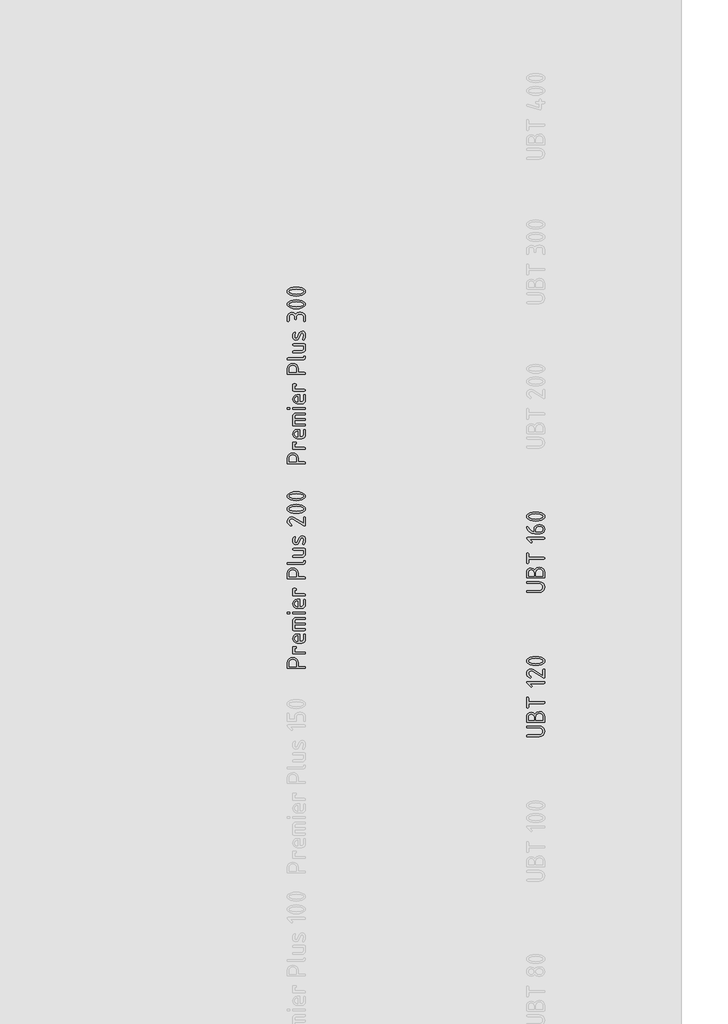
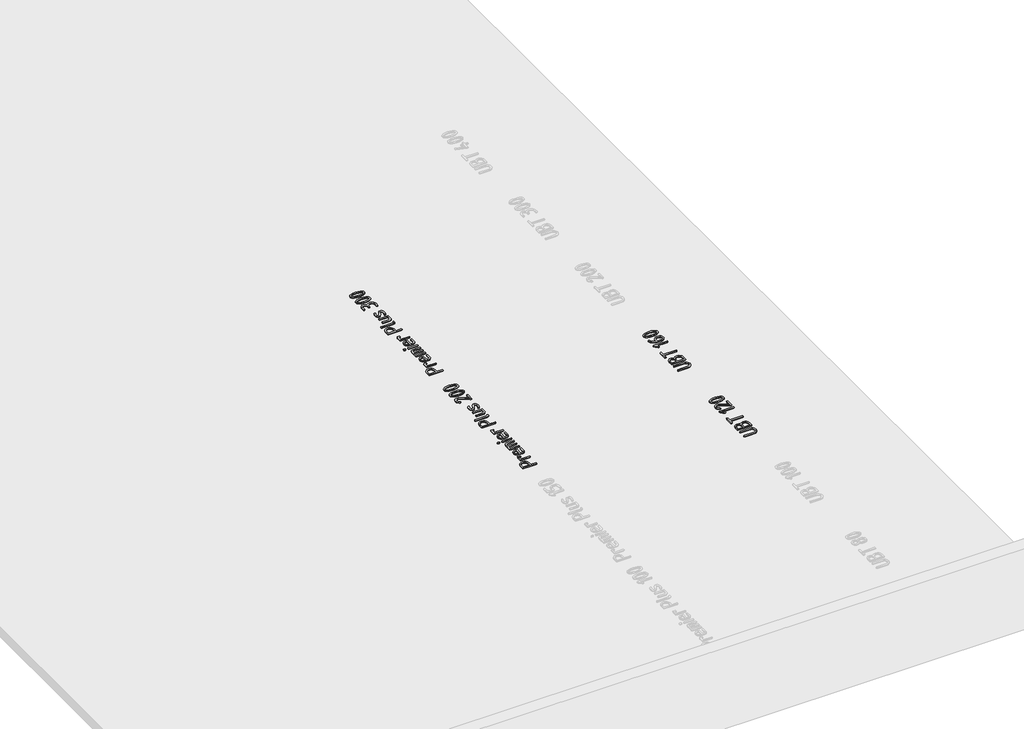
# One storey, part 30 of 37: 4 proxies.
"""IFC4 building model written with IfcOpenShell, lengths in millimetres."""

from ifc_helpers import new_model, si_unit, frame, origin, place, context, project, spatial, polyline, outline, extrude, element, save

model = new_model("IFC4")

# Units and contexts
model_context = context("Model", 3, world=origin())
ifc_project = project(units=[si_unit("LENGTHUNIT", "METRE", prefix="MILLI")], contexts=[model_context])

# Site, building, storey
site = spatial("IfcSite", under=ifc_project)
building = spatial("IfcBuilding", under=site)
storey = spatial("IfcBuildingStorey", under=building, Name="01_Стартовый вид_Площадка", Elevation=0.0)

# Proxies
placement = place(None, origin())
element("IfcBuildingElementProxy", 1, Name="150 мм", ObjectType="150 мм", at=placement, inside=storey, context=model_context, shape_type="SweptSolid", body=[
    extrude(outline(polyline([(35202.1598658, -14355.5522205), (35300.2010973, -14355.5522205), (35317.5700563, -14358.8282519), (35332.2023305, -14368.656346), (35342.1502794, -14383.118826), (35345.4662624, -14400.2980149), (35342.1502794, -14417.4772038), (35332.2023305, -14431.9396837), (35317.5700563, -14441.7677778), (35300.2010973, -14445.0438092), (35202.1598658, -14445.0438092), (35196.4967262, -14443.1261323), (35194.609013, -14437.3731016), (35196.4867383, -14431.6200709), (35202.1199142, -14429.702394), (35300.0013393, -14429.702394), (35311.6821889, -14427.5699772), (35321.3954222, -14421.172727), (35327.942491, -14411.6892154), (35330.1248472, -14400.2980149), (35327.942491, -14388.9068143), (35321.3954222, -14379.4233028), (35311.6821889, -14373.0260525), (35300.0013393, -14370.8936357), (35202.1199142, -14370.8936357), (35196.4867383, -14368.9759588), (35194.609013, -14363.2229281), (35196.4967262, -14357.4698974), (35202.1598658, -14355.5522205)])), frame((0.0, 0.0, 11.1696829), z_axis=(0.0, 0.0, 1.0), x_axis=(1.0, 0.0, 0.0)), (0.0, 0.0, 1.0), 10.0),
    extrude(outline(polyline([(35262.8463493, -14257.2313278), (35278.6571958, -14240.8411831), (35300.8403229, -14235.3778015), (35317.9545904, -14238.6538329), (35332.3821127, -14248.481927), (35342.195225, -14262.9444069), (35345.4662624, -14280.1235958), (35345.4662624, -14317.3984406), (35343.5785492, -14323.0016527), (35337.9154096, -14324.8693901), (35202.1598658, -14324.8693901), (35196.4967262, -14323.0116406), (35194.609013, -14317.4383922), (35194.609013, -14280.2434506), (35197.3856493, -14265.8059404), (35205.7155584, -14253.8154659), (35218.0805792, -14245.7402483), (35232.962551, -14243.0485091), (35249.622369, -14246.5942138), (35262.8463493, -14257.2313278)]), holes=[polyline([(35271.316089, -14309.5279749), (35330.1248472, -14309.5279749), (35330.1248472, -14280.1235958), (35327.9924305, -14268.7323953), (35321.5951802, -14259.2488837), (35312.1116686, -14252.8516335), (35300.7204681, -14250.7192167), (35289.3292675, -14252.8516335), (35279.845756, -14259.2488837), (35273.4485057, -14268.7323953), (35271.316089, -14280.1235958), (35271.316089, -14309.5279749)]), polyline([(35209.9504282, -14309.5279749), (35255.9746738, -14309.5279749), (35255.9746738, -14280.3233538), (35254.2917125, -14271.8885718), (35249.2428288, -14264.8021564), (35241.8068369, -14259.9929823), (35232.962551, -14258.3899243), (35224.1182651, -14259.9929823), (35216.6822731, -14264.8021564), (35211.6333894, -14271.8885718), (35209.9504282, -14280.3233538), (35209.9504282, -14309.5279749)])]), frame((0.0, 0.0, 11.1696829), z_axis=(0.0, 0.0, 1.0), x_axis=(1.0, 0.0, 0.0)), (0.0, 0.0, 1.0), 10.0),
    extrude(outline(polyline([(35202.2797206, -14206.41289), (35196.5266899, -14204.5351647), (35194.609013, -14198.9019888), (35194.609013, -14123.5532673), (35196.5266899, -14117.9500551), (35202.2797206, -14116.0823177), (35208.0327513, -14117.9500551), (35209.9504282, -14123.5532673), (35209.9504282, -14153.5569204), (35337.9553612, -14153.5569204), (35343.5885371, -14155.4745973), (35345.4662624, -14161.227628), (35343.5885371, -14166.9806587), (35337.9553612, -14168.8983356), (35209.9504282, -14168.8983356), (35209.9504282, -14198.9019888), (35208.0327513, -14204.5351647), (35202.2797206, -14206.41289)])), frame((0.0, 0.0, 11.1696829), z_axis=(0.0, 0.0, 1.0), x_axis=(1.0, 0.0, 0.0)), (0.0, 0.0, 1.0), 10.0),
    extrude(outline(polyline([(35220.3378447, -14002.699671), (35237.6368884, -14019.9587631), (35239.7942749, -14025.192423), (35237.9165496, -14030.8255989), (35232.2833737, -14032.7033242), (35227.0497139, -14030.505986), (35197.5654315, -14001.1815101), (35194.609013, -13995.0289634), (35196.4967262, -13989.2759327), (35202.1598658, -13987.3582558), (35337.9154096, -13987.3582558), (35343.5785492, -13989.2759327), (35345.4662624, -13995.0289634), (35343.5785492, -14000.7819941), (35337.9154096, -14002.699671), (35220.3378447, -14002.699671)])), frame((0.0, 0.0, 11.1696829), z_axis=(0.0, 0.0, 1.0), x_axis=(1.0, 0.0, 0.0)), (0.0, 0.0, 1.0), 10.0),
    extrude(outline(polyline([(35194.609013, -13919.5204355), (35197.3606796, -13905.0929132), (35205.6156793, -13892.9725959), (35217.7759482, -13884.7475598), (35232.2434221, -13882.0058811), (35243.0403426, -13883.7138121), (35253.9371421, -13888.8376051), (35330.1248472, -13936.1003503), (35330.1248472, -13889.5167823), (35332.0425241, -13883.8836064), (35337.7955548, -13882.0058811), (35343.5485855, -13883.8836064), (35345.4662624, -13889.5167823), (35345.4662624, -13949.5240886), (35343.5885371, -13955.1572645), (35337.9553612, -13957.0349898), (35333.6006366, -13955.7565386), (35244.9879832, -13900.7831341), (35232.5230833, -13897.0276835), (35223.8585796, -13898.6756871), (35216.5624183, -13903.6196978), (35211.6034257, -13910.8908894), (35209.9504282, -13919.5204355), (35214.6647172, -13931.7556136), (35228.8075844, -13943.0519291), (35232.4431801, -13949.5240886), (35230.5654548, -13955.1572645), (35224.932279, -13957.0349898), (35221.8560056, -13956.315861), (35201.4207611, -13940.14545), (35196.31195, -13930.3897682), (35194.609013, -13919.5204355)])), frame((0.0, 0.0, 11.1696829), z_axis=(0.0, 0.0, 1.0), x_axis=(1.0, 0.0, 0.0)), (0.0, 0.0, 1.0), 10.0),
    extrude(outline(polyline([(35270.0376377, -13777.6922481), (35295.1771833, -13779.3202759), (35316.6611573, -13784.2043592), (35338.2649861, -13796.6193196), (35343.6659433, -13804.9766953), (35345.4662624, -13814.7673348), (35343.6734343, -13824.5579743), (35338.2949498, -13832.9153501), (35316.7810121, -13845.3303104), (35295.2670744, -13850.2143938), (35270.0376377, -13851.8424216), (35244.808201, -13850.2143938), (35223.2942633, -13845.3303104), (35201.7803255, -13832.9153501), (35196.4018411, -13824.5579743), (35194.609013, -13814.7673348), (35196.409332, -13804.9766953), (35201.8102892, -13796.6193196), (35223.4141181, -13784.2043592), (35244.8980921, -13779.3202759), (35270.0376377, -13777.6922481)]), holes=[polyline([(35270.0376377, -13793.0336633), (35234.8802279, -13796.8690171), (35216.1828781, -13804.2600635), (35209.9504282, -13814.7673348), (35216.2128418, -13825.1847151), (35235.0000827, -13832.5457978), (35270.0376377, -13836.5010064), (35305.1950475, -13832.6656526), (35323.8923973, -13825.2746062), (35330.1248472, -13814.7673348), (35323.8923973, -13804.2600635), (35305.1950475, -13796.8690171), (35270.0376377, -13793.0336633)])]), frame((0.0, 0.0, 11.1696829), z_axis=(0.0, 0.0, 1.0), x_axis=(1.0, 0.0, 0.0)), (0.0, 0.0, 1.0), 10.0),
])
element("IfcBuildingElementProxy", 2, Name="150 мм", ObjectType="150 мм", at=placement, inside=storey, context=model_context, shape_type="SweptSolid", body=[
    extrude(outline(polyline([(35202.1598658, -13155.5522205), (35300.2010973, -13155.5522205), (35317.5700563, -13158.8282519), (35332.2023305, -13168.656346), (35342.1502794, -13183.118826), (35345.4662624, -13200.2980149), (35342.1502794, -13217.4772038), (35332.2023305, -13231.9396837), (35317.5700563, -13241.7677778), (35300.2010973, -13245.0438092), (35202.1598658, -13245.0438092), (35196.4967262, -13243.1261323), (35194.609013, -13237.3731016), (35196.4867383, -13231.6200709), (35202.1199142, -13229.702394), (35300.0013393, -13229.702394), (35311.6821889, -13227.5699772), (35321.3954222, -13221.172727), (35327.942491, -13211.6892154), (35330.1248472, -13200.2980149), (35327.942491, -13188.9068143), (35321.3954222, -13179.4233028), (35311.6821889, -13173.0260525), (35300.0013393, -13170.8936357), (35202.1199142, -13170.8936357), (35196.4867383, -13168.9759588), (35194.609013, -13163.2229281), (35196.4967262, -13157.4698974), (35202.1598658, -13155.5522205)])), frame((0.0, 0.0, 11.1696829), z_axis=(0.0, 0.0, 1.0), x_axis=(1.0, 0.0, 0.0)), (0.0, 0.0, 1.0), 10.0),
    extrude(outline(polyline([(35262.8463493, -13057.2313278), (35278.6571958, -13040.8411831), (35300.8403229, -13035.3778015), (35317.9545904, -13038.6538329), (35332.3821127, -13048.481927), (35342.195225, -13062.9444069), (35345.4662624, -13080.1235958), (35345.4662624, -13117.3984406), (35343.5785492, -13123.0016527), (35337.9154096, -13124.8693901), (35202.1598658, -13124.8693901), (35196.4967262, -13123.0116406), (35194.609013, -13117.4383922), (35194.609013, -13080.2434506), (35197.3856493, -13065.8059404), (35205.7155584, -13053.8154659), (35218.0805792, -13045.7402483), (35232.962551, -13043.0485091), (35249.622369, -13046.5942138), (35262.8463493, -13057.2313278)]), holes=[polyline([(35271.316089, -13109.5279749), (35330.1248472, -13109.5279749), (35330.1248472, -13080.1235958), (35327.9924305, -13068.7323953), (35321.5951802, -13059.2488837), (35312.1116686, -13052.8516335), (35300.7204681, -13050.7192167), (35289.3292675, -13052.8516335), (35279.845756, -13059.2488837), (35273.4485057, -13068.7323953), (35271.316089, -13080.1235958), (35271.316089, -13109.5279749)]), polyline([(35209.9504282, -13109.5279749), (35255.9746738, -13109.5279749), (35255.9746738, -13080.3233538), (35254.2917125, -13071.8885718), (35249.2428288, -13064.8021564), (35241.8068369, -13059.9929823), (35232.962551, -13058.3899243), (35224.1182651, -13059.9929823), (35216.6822731, -13064.8021564), (35211.6333894, -13071.8885718), (35209.9504282, -13080.3233538), (35209.9504282, -13109.5279749)])]), frame((0.0, 0.0, 11.1696829), z_axis=(0.0, 0.0, 1.0), x_axis=(1.0, 0.0, 0.0)), (0.0, 0.0, 1.0), 10.0),
    extrude(outline(polyline([(35202.2797206, -13006.41289), (35196.5266899, -13004.5351647), (35194.609013, -12998.9019888), (35194.609013, -12923.5532673), (35196.5266899, -12917.9500551), (35202.2797206, -12916.0823177), (35208.0327513, -12917.9500551), (35209.9504282, -12923.5532673), (35209.9504282, -12953.5569204), (35337.9553612, -12953.5569204), (35343.5885371, -12955.4745973), (35345.4662624, -12961.227628), (35343.5885371, -12966.9806587), (35337.9553612, -12968.8983356), (35209.9504282, -12968.8983356), (35209.9504282, -12998.9019888), (35208.0327513, -13004.5351647), (35202.2797206, -13006.41289)])), frame((0.0, 0.0, 11.1696829), z_axis=(0.0, 0.0, 1.0), x_axis=(1.0, 0.0, 0.0)), (0.0, 0.0, 1.0), 10.0),
    extrude(outline(polyline([(35220.3378447, -12802.699671), (35237.6368884, -12819.9587631), (35239.7942749, -12825.192423), (35237.9165496, -12830.8255989), (35232.2833737, -12832.7033242), (35227.0497139, -12830.505986), (35197.5654315, -12801.1815101), (35194.609013, -12795.0289634), (35196.4967262, -12789.2759327), (35202.1598658, -12787.3582558), (35337.9154096, -12787.3582558), (35343.5785492, -12789.2759327), (35345.4662624, -12795.0289634), (35343.5785492, -12800.7819941), (35337.9154096, -12802.699671), (35220.3378447, -12802.699671)])), frame((0.0, 0.0, 11.1696829), z_axis=(0.0, 0.0, 1.0), x_axis=(1.0, 0.0, 0.0)), (0.0, 0.0, 1.0), 10.0),
    extrude(outline(polyline([(35194.609013, -12705.2177619), (35196.5266899, -12699.7044408), (35202.2797206, -12697.8666671), (35208.9116865, -12701.5422145), (35216.1629023, -12716.853666), (35229.3669068, -12730.10761), (35242.4111049, -12737.7483539), (35255.9746738, -12741.3340102), (35255.9746738, -12719.6402903), (35258.6863888, -12705.1628285), (35266.8215337, -12693.2123055), (35278.8519599, -12685.1970153), (35293.2495185, -12682.5252519), (35308.1914177, -12682.5252519), (35322.5889763, -12685.2369669), (35334.6194025, -12693.3721119), (35342.7545474, -12705.3525986), (35345.4662624, -12719.6003387), (35342.7395656, -12733.922988), (35334.5594751, -12745.8884928), (35322.4641275, -12753.9786923), (35307.9916597, -12756.6754254), (35262.4867849, -12756.6754254), (35238.4558963, -12752.5304467), (35217.5811842, -12740.0955105), (35204.7766957, -12726.5718932), (35196.3269319, -12711.8896795), (35194.609013, -12705.2177619)]), holes=[polyline([(35271.316089, -12741.3340102), (35308.0715629, -12741.3340102), (35316.596236, -12739.7559219), (35323.7126151, -12735.0216571), (35328.5217892, -12728.0101509), (35330.1248472, -12719.6003387), (35328.5118013, -12711.1905264), (35323.6726635, -12704.1790203), (35316.5462965, -12699.4447554), (35308.0715629, -12697.8666671), (35293.3693733, -12697.8666671), (35284.8447002, -12699.4597373), (35277.7283211, -12704.2389477), (35272.919147, -12711.2654357), (35271.316089, -12719.6003387), (35271.316089, -12741.3340102)])]), frame((0.0, 0.0, 11.1696829), z_axis=(0.0, 0.0, 1.0), x_axis=(1.0, 0.0, 0.0)), (0.0, 0.0, 1.0), 10.0),
    extrude(outline(polyline([(35270.0376377, -12577.6922481), (35295.1771833, -12579.3202759), (35316.6611573, -12584.2043592), (35338.2649861, -12596.6193196), (35343.6659433, -12604.9766953), (35345.4662624, -12614.7673348), (35343.6734343, -12624.5579743), (35338.2949498, -12632.9153501), (35316.7810121, -12645.3303104), (35295.2670744, -12650.2143938), (35270.0376377, -12651.8424216), (35244.808201, -12650.2143938), (35223.2942633, -12645.3303104), (35201.7803255, -12632.9153501), (35196.4018411, -12624.5579743), (35194.609013, -12614.7673348), (35196.409332, -12604.9766953), (35201.8102892, -12596.6193196), (35223.4141181, -12584.2043592), (35244.8980921, -12579.3202759), (35270.0376377, -12577.6922481)]), holes=[polyline([(35270.0376377, -12593.0336633), (35234.8802279, -12596.8690171), (35216.1828781, -12604.2600635), (35209.9504282, -12614.7673348), (35216.2128418, -12625.1847151), (35235.0000827, -12632.5457978), (35270.0376377, -12636.5010064), (35305.1950475, -12632.6656526), (35323.8923973, -12625.2746062), (35330.1248472, -12614.7673348), (35323.8923973, -12604.2600635), (35305.1950475, -12596.8690171), (35270.0376377, -12593.0336633)])]), frame((0.0, 0.0, 11.1696829), z_axis=(0.0, 0.0, 1.0), x_axis=(1.0, 0.0, 0.0)), (0.0, 0.0, 1.0), 10.0),
])
element("IfcBuildingElementProxy", 3, Name="150 мм", ObjectType="150 мм", at=placement, inside=storey, context=model_context, shape_type="SweptSolid", body=[
    extrude(outline(polyline([(33204.4863843, -13868.7582704), (33204.4863843, -13831.4834256), (33207.8423188, -13814.2293275), (33217.9101226, -13799.7818294), (33232.7721185, -13789.9986808), (33250.5106299, -13786.7376313), (33269.0481732, -13789.8288865), (33283.7503628, -13799.1026521), (33293.3387473, -13813.3204285), (33296.5348755, -13831.243716), (33296.5348755, -13860.8878048), (33347.9925389, -13860.8878048), (33353.50586, -13862.8054817), (33355.3436337, -13868.5585124), (33353.4559205, -13874.3115431), (33347.7927809, -13876.22922), (33212.0372371, -13876.22922), (33206.3740975, -13874.3614826), (33204.4863843, -13868.7582704)]), holes=[polyline([(33219.8277995, -13860.8878048), (33281.1934603, -13860.8878048), (33281.1934603, -13831.4834256), (33278.9711524, -13820.0922251), (33272.3042288, -13810.6087135), (33262.4112133, -13804.2114633), (33250.5106299, -13802.0790465), (33238.6100464, -13804.2114633), (33228.7170309, -13810.6087135), (33222.0501073, -13820.0922251), (33219.8277995, -13831.4834256), (33219.8277995, -13860.8878048)])]), frame((0.0, 0.0, 11.1696829), z_axis=(0.0, 0.0, 1.0), x_axis=(1.0, 0.0, 0.0)), (0.0, 0.0, 1.0), 10.0),
    extrude(outline(polyline([(33257.9815795, -13756.0548009), (33252.3783673, -13754.137124), (33250.5106299, -13748.3840933), (33250.5106299, -13703.1988314), (33252.4283068, -13697.5956192), (33258.1813375, -13695.7278818), (33273.3629463, -13695.7278818), (33278.9961221, -13697.5956192), (33280.8738474, -13703.1988314), (33278.9961221, -13708.8320073), (33273.3629463, -13710.7097326), (33265.8520451, -13710.7097326), (33265.8520451, -13740.7133857), (33347.8726841, -13740.7133857), (33353.4758963, -13742.6310626), (33355.3436337, -13748.3840933), (33353.4758963, -13754.137124), (33347.8726841, -13756.0548009), (33257.9815795, -13756.0548009)])), frame((0.0, 0.0, 11.1696829), z_axis=(0.0, 0.0, 1.0), x_axis=(1.0, 0.0, 0.0)), (0.0, 0.0, 1.0), 10.0),
    extrude(outline(polyline([(33309.3193881, -13651.2217971), (33324.6608033, -13651.2217971), (33335.4677117, -13646.7871692), (33340.0022185, -13636.2399463), (33340.0022185, -13598.7253919), (33341.9198954, -13593.092216), (33347.6729261, -13591.2144907), (33353.4259568, -13593.092216), (33355.3436337, -13598.7253919), (33355.3436337, -13636.2399463), (33353.1762593, -13647.8958262), (33346.6741361, -13657.6939566), (33337.0158363, -13664.3458983), (33325.3799322, -13666.5632123), (33287.945281, -13666.5632123), (33273.5527164, -13663.781582), (33261.4573688, -13655.4366911), (33253.2473146, -13643.196519), (33250.5106299, -13628.7290451), (33253.1674114, -13614.1517043), (33261.137756, -13602.0613507), (33272.983406, -13593.9262057), (33287.2661038, -13591.2144907), (33309.3193881, -13591.2144907), (33309.3193881, -13651.2217971)]), holes=[polyline([(33263.9743198, -13628.7290451), (33265.6223234, -13637.3585911), (33270.5663341, -13644.6297827), (33277.8375257, -13649.5737935), (33286.4670717, -13651.2217971), (33293.9779729, -13651.2217971), (33293.9779729, -13606.2362931), (33286.4670717, -13606.2362931), (33277.8375257, -13607.8842967), (33270.5663341, -13612.8283075), (33265.6223234, -13620.099499), (33263.9743198, -13628.7290451)])]), frame((0.0, 0.0, 11.1696829), z_axis=(0.0, 0.0, 1.0), x_axis=(1.0, 0.0, 0.0)), (0.0, 0.0, 1.0), 10.0),
    extrude(outline(polyline([(33250.5106299, -13554.0595008), (33250.5106299, -13485.0231324), (33252.6780043, -13473.122549), (33259.1801275, -13463.2295335), (33268.8384273, -13456.5626099), (33280.4743314, -13454.340302), (33347.8726841, -13454.340302), (33353.4758963, -13456.2579789), (33355.3436337, -13462.0110096), (33353.4758963, -13467.7640403), (33347.8726841, -13469.6817172), (33280.7539926, -13469.6817172), (33270.1468423, -13474.0963693), (33265.8520451, -13485.0231324), (33265.8520451, -13500.3645476), (33347.8726841, -13500.3645476), (33353.4758963, -13502.2822245), (33355.3436337, -13508.0352552), (33353.4758963, -13513.7882859), (33347.8726841, -13515.7059628), (33265.8520451, -13515.7059628), (33265.8520451, -13546.3887932), (33347.8726841, -13546.3887932), (33353.4758963, -13548.3064701), (33355.3436337, -13554.0595008), (33353.4758963, -13559.8125315), (33347.8726841, -13561.7302084), (33257.9815795, -13561.7302084), (33252.3783673, -13559.8125315), (33250.5106299, -13554.0595008)])), frame((0.0, 0.0, 11.1696829), z_axis=(0.0, 0.0, 1.0), x_axis=(1.0, 0.0, 0.0)), (0.0, 0.0, 1.0), 10.0),
    extrude(outline(polyline([(33257.821773, -13423.6574716), (33252.2185609, -13421.7397947), (33250.3508235, -13415.986764), (33252.2185609, -13410.2337333), (33257.821773, -13408.3160564), (33347.8327325, -13408.3160564), (33353.4659084, -13410.2337333), (33355.3436337, -13415.986764), (33353.4659084, -13421.7397947), (33347.8327325, -13423.6574716), (33257.821773, -13423.6574716)])), frame((0.0, 0.0, 11.1696829), z_axis=(0.0, 0.0, 1.0), x_axis=(1.0, 0.0, 0.0)), (0.0, 0.0, 1.0), 10.0),
    extrude(outline(polyline([(33219.5081867, -13423.6574716), (33211.9972855, -13423.6574716), (33206.3641096, -13421.7397947), (33204.4863843, -13415.986764), (33206.3641096, -13410.2337333), (33211.9972855, -13408.3160564), (33219.5081867, -13408.3160564), (33225.1413625, -13410.2337333), (33227.0190878, -13415.986764), (33225.1413625, -13421.7397947), (33219.5081867, -13423.6574716)])), frame((0.0, 0.0, 11.1696829), z_axis=(0.0, 0.0, 1.0), x_axis=(1.0, 0.0, 0.0)), (0.0, 0.0, 1.0), 10.0),
    extrude(outline(polyline([(33309.3193881, -13362.2918108), (33324.6608033, -13362.2918108), (33335.4677117, -13357.857183), (33340.0022185, -13347.3099601), (33340.0022185, -13309.7954057), (33341.9198954, -13304.1622298), (33347.6729261, -13302.2845045), (33353.4259568, -13304.1622298), (33355.3436337, -13309.7954057), (33355.3436337, -13347.3099601), (33353.1762593, -13358.96584), (33346.6741361, -13368.7639704), (33337.0158363, -13375.4159121), (33325.3799322, -13377.633226), (33287.945281, -13377.633226), (33273.5527164, -13374.8515957), (33261.4573688, -13366.5067049), (33253.2473146, -13354.2665328), (33250.5106299, -13339.7990589), (33253.1674114, -13325.2217181), (33261.137756, -13313.1313645), (33272.983406, -13304.9962195), (33287.2661038, -13302.2845045), (33309.3193881, -13302.2845045), (33309.3193881, -13362.2918108)]), holes=[polyline([(33263.9743198, -13339.7990589), (33265.6223234, -13348.4286049), (33270.5663341, -13355.6997965), (33277.8375257, -13360.6438073), (33286.4670717, -13362.2918108), (33293.9779729, -13362.2918108), (33293.9779729, -13317.3063069), (33286.4670717, -13317.3063069), (33277.8375257, -13318.9543105), (33270.5663341, -13323.8983212), (33265.6223234, -13331.1695128), (33263.9743198, -13339.7990589)])]), frame((0.0, 0.0, 11.1696829), z_axis=(0.0, 0.0, 1.0), x_axis=(1.0, 0.0, 0.0)), (0.0, 0.0, 1.0), 10.0),
    extrude(outline(polyline([(33257.9815795, -13272.8002222), (33252.3783673, -13270.8825453), (33250.5106299, -13265.1295146), (33250.5106299, -13219.9442526), (33252.4283068, -13214.3410404), (33258.1813375, -13212.4733031), (33273.3629463, -13212.4733031), (33278.9961221, -13214.3410404), (33280.8738474, -13219.9442526), (33278.9961221, -13225.5774285), (33273.3629463, -13227.4551538), (33265.8520451, -13227.4551538), (33265.8520451, -13257.458807), (33347.8726841, -13257.458807), (33353.4758963, -13259.3764839), (33355.3436337, -13265.1295146), (33353.4758963, -13270.8825453), (33347.8726841, -13272.8002222), (33257.9815795, -13272.8002222)])), frame((0.0, 0.0, 11.1696829), z_axis=(0.0, 0.0, 1.0), x_axis=(1.0, 0.0, 0.0)), (0.0, 0.0, 1.0), 10.0),
    extrude(outline(polyline([(33204.4863843, -13124.6996333), (33204.4863843, -13087.4247886), (33207.8423188, -13070.1706904), (33217.9101226, -13055.7231923), (33232.7721185, -13045.9400437), (33250.5106299, -13042.6789942), (33269.0481732, -13045.7702494), (33283.7503628, -13055.0440151), (33293.3387473, -13069.2617915), (33296.5348755, -13087.1850789), (33296.5348755, -13116.8291677), (33347.9925389, -13116.8291677), (33353.50586, -13118.7468446), (33355.3436337, -13124.4998753), (33353.4559205, -13130.252906), (33347.7927809, -13132.1705829), (33212.0372371, -13132.1705829), (33206.3740975, -13130.3028455), (33204.4863843, -13124.6996333)]), holes=[polyline([(33219.8277995, -13116.8291677), (33281.1934603, -13116.8291677), (33281.1934603, -13087.4247886), (33278.9711524, -13076.033588), (33272.3042288, -13066.5500765), (33262.4112133, -13060.1528262), (33250.5106299, -13058.0204094), (33238.6100464, -13060.1528262), (33228.7170309, -13066.5500765), (33222.0501073, -13076.033588), (33219.8277995, -13087.4247886), (33219.8277995, -13116.8291677)])]), frame((0.0, 0.0, 11.1696829), z_axis=(0.0, 0.0, 1.0), x_axis=(1.0, 0.0, 0.0)), (0.0, 0.0, 1.0), 10.0),
    extrude(outline(polyline([(33212.0372371, -13011.9961638), (33206.3740975, -13010.0784869), (33204.4863843, -13004.3254562), (33206.3740975, -12998.5724255), (33212.0372371, -12996.6547486), (33332.7310269, -12996.6547486), (33337.5052434, -12994.7820173), (33340.2419281, -12989.1638232), (33342.9886008, -12983.5456292), (33347.7927809, -12981.6728979), (33353.4559205, -12983.5406353), (33355.3436337, -12989.1438474), (33353.8454486, -12998.3676736), (33349.3508934, -13005.6638349), (33342.1995566, -13010.4130816), (33332.7310269, -13011.9961638), (33212.0372371, -13011.9961638)])), frame((0.0, 0.0, 11.1696829), z_axis=(0.0, 0.0, 1.0), x_axis=(1.0, 0.0, 0.0)), (0.0, 0.0, 1.0), 10.0),
    extrude(outline(polyline([(33257.9815795, -12879.0372321), (33347.8726841, -12879.0372321), (33353.4758963, -12880.8949816), (33355.3436337, -12886.4682301), (33355.3436337, -12923.5433168), (33353.1762593, -12935.0393903), (33346.6741361, -12944.5978111), (33337.0158363, -12951.040007), (33325.3799322, -12953.1874056), (33257.9815795, -12953.1874056), (33252.3783673, -12951.2697287), (33250.5106299, -12945.516698), (33252.3783673, -12939.7636673), (33257.9815795, -12937.8459904), (33325.1002709, -12937.8459904), (33335.5875665, -12933.571169), (33340.0022185, -12923.3435588), (33340.0022185, -12894.3786473), (33257.9815795, -12894.3786473), (33252.3783673, -12892.4609704), (33250.5106299, -12886.7079397), (33252.3783673, -12880.954909), (33257.9815795, -12879.0372321)])), frame((0.0, 0.0, 11.1696829), z_axis=(0.0, 0.0, 1.0), x_axis=(1.0, 0.0, 0.0)), (0.0, 0.0, 1.0), 10.0),
    extrude(outline(polyline([(33328.8157699, -12788.7066598), (33322.6931869, -12790.294736), (33318.6281114, -12795.0589646), (33300.1704712, -12833.572309), (33290.6420142, -12844.9285518), (33276.5191228, -12848.7139661), (33265.0929646, -12846.0372088), (33256.623225, -12838.0069368), (33252.0387786, -12827.6794476), (33250.5106299, -12815.0747172), (33252.6280648, -12799.2239191), (33258.9803695, -12785.1509672), (33265.7321903, -12781.1957586), (33271.0257775, -12783.4130725), (33273.2430914, -12788.7066598), (33272.3242046, -12792.2224008), (33267.4700849, -12803.3289462), (33265.8520451, -12815.0747172), (33268.6286814, -12829.0378021), (33276.9585904, -12833.6921638), (33282.9413429, -12832.1540271), (33286.9065394, -12827.539617), (33305.5639375, -12788.7066598), (33315.0923946, -12777.440308), (33329.215286, -12773.6848574), (33341.1008876, -12776.3815906), (33349.590603, -12784.47179), (33353.905376, -12795.0290009), (33355.3436337, -12808.2429932), (33353.2261988, -12828.0889516), (33346.8738941, -12844.4790963), (33340.0022185, -12848.7139661), (33334.7086312, -12846.4966522), (33332.4913173, -12841.203065), (33333.0506398, -12838.3665012), (33337.245558, -12827.6594718), (33340.0022185, -12807.8035256), (33337.2056064, -12793.4808763), (33328.8157699, -12788.7066598)])), frame((0.0, 0.0, 11.1696829), z_axis=(0.0, 0.0, 1.0), x_axis=(1.0, 0.0, 0.0)), (0.0, 0.0, 1.0), 10.0),
    extrude(outline(polyline([(33204.4863843, -12655.2283573), (33207.2380509, -12640.800835), (33215.4930506, -12628.6805177), (33227.6533195, -12620.4554816), (33242.1207934, -12617.7138029), (33252.9177139, -12619.4217339), (33263.8145134, -12624.5455269), (33340.0022185, -12671.8082721), (33340.0022185, -12625.2247041), (33341.9198954, -12619.5915282), (33347.6729261, -12617.7138029), (33353.4259568, -12619.5915282), (33355.3436337, -12625.2247041), (33355.3436337, -12685.2320104), (33353.4659084, -12690.8651863), (33347.8327325, -12692.7429116), (33343.4780079, -12691.4644604), (33254.8653545, -12636.4910559), (33242.4004546, -12632.7356053), (33233.7359509, -12634.3836089), (33226.4397896, -12639.3276197), (33221.480797, -12646.5988112), (33219.8277995, -12655.2283573), (33224.5420885, -12667.4635354), (33238.6849557, -12678.7598509), (33242.3205514, -12685.2320104), (33240.4428261, -12690.8651863), (33234.8096503, -12692.7429116), (33231.7333769, -12692.0237828), (33211.2981324, -12675.8533719), (33206.1893213, -12666.09769), (33204.4863843, -12655.2283573)])), frame((0.0, 0.0, 11.1696829), z_axis=(0.0, 0.0, 1.0), x_axis=(1.0, 0.0, 0.0)), (0.0, 0.0, 1.0), 10.0),
    extrude(outline(polyline([(33279.915009, -12513.4001699), (33305.0545546, -12515.0281977), (33326.5385286, -12519.912281), (33348.1423574, -12532.3272414), (33353.5433146, -12540.6846172), (33355.3436337, -12550.4752566), (33353.5508056, -12560.2658961), (33348.1723211, -12568.6232719), (33326.6583834, -12581.0382322), (33305.1444457, -12585.9223156), (33279.915009, -12587.5503434), (33254.6855723, -12585.9223156), (33233.1716346, -12581.0382322), (33211.6576968, -12568.6232719), (33206.2792124, -12560.2658961), (33204.4863843, -12550.4752566), (33206.2867033, -12540.6846172), (33211.6876605, -12532.3272414), (33233.2914894, -12519.912281), (33254.7754634, -12515.0281977), (33279.915009, -12513.4001699)]), holes=[polyline([(33279.915009, -12528.7415851), (33244.7575992, -12532.5769389), (33226.0602494, -12539.9679853), (33219.8277995, -12550.4752566), (33226.0902131, -12560.8926369), (33244.877454, -12568.2537196), (33279.915009, -12572.2089282), (33315.0724188, -12568.3735744), (33333.7697686, -12560.982528), (33340.0022185, -12550.4752566), (33333.7697686, -12539.9679853), (33315.0724188, -12532.5769389), (33279.915009, -12528.7415851)])]), frame((0.0, 0.0, 11.1696829), z_axis=(0.0, 0.0, 1.0), x_axis=(1.0, 0.0, 0.0)), (0.0, 0.0, 1.0), 10.0),
    extrude(outline(polyline([(33279.915009, -12408.5671661), (33305.0545546, -12410.1951938), (33326.5385286, -12415.0792772), (33348.1423574, -12427.4942375), (33353.5433146, -12435.8516133), (33355.3436337, -12445.6422528), (33353.5508056, -12455.4328923), (33348.1723211, -12463.790268), (33326.6583834, -12476.2052284), (33305.1444457, -12481.0893117), (33279.915009, -12482.7173395), (33254.6855723, -12481.0893117), (33233.1716346, -12476.2052284), (33211.6576968, -12463.790268), (33206.2792124, -12455.4328923), (33204.4863843, -12445.6422528), (33206.2867033, -12435.8516133), (33211.6876605, -12427.4942375), (33233.2914894, -12415.0792772), (33254.7754634, -12410.1951938), (33279.915009, -12408.5671661)]), holes=[polyline([(33279.915009, -12423.9085813), (33244.7575992, -12427.7439351), (33226.0602494, -12435.1349814), (33219.8277995, -12445.6422528), (33226.0902131, -12456.059633), (33244.877454, -12463.4207157), (33279.915009, -12467.3759243), (33315.0724188, -12463.5405705), (33333.7697686, -12456.1495241), (33340.0022185, -12445.6422528), (33333.7697686, -12435.1349814), (33315.0724188, -12427.7439351), (33279.915009, -12423.9085813)])]), frame((0.0, 0.0, 11.1696829), z_axis=(0.0, 0.0, 1.0), x_axis=(1.0, 0.0, 0.0)), (0.0, 0.0, 1.0), 10.0),
])
element("IfcBuildingElementProxy", 4, Name="150 мм", ObjectType="150 мм", at=placement, inside=storey, context=model_context, shape_type="SweptSolid", body=[
    extrude(outline(polyline([(33204.4863843, -12168.7582704), (33204.4863843, -12131.4834256), (33207.8423188, -12114.2293275), (33217.9101226, -12099.7818294), (33232.7721185, -12089.9986808), (33250.5106299, -12086.7376313), (33269.0481732, -12089.8288865), (33283.7503628, -12099.1026521), (33293.3387473, -12113.3204285), (33296.5348755, -12131.243716), (33296.5348755, -12160.8878048), (33347.9925389, -12160.8878048), (33353.50586, -12162.8054817), (33355.3436337, -12168.5585124), (33353.4559205, -12174.3115431), (33347.7927809, -12176.22922), (33212.0372371, -12176.22922), (33206.3740975, -12174.3614826), (33204.4863843, -12168.7582704)]), holes=[polyline([(33219.8277995, -12160.8878048), (33281.1934603, -12160.8878048), (33281.1934603, -12131.4834256), (33278.9711524, -12120.0922251), (33272.3042288, -12110.6087135), (33262.4112133, -12104.2114633), (33250.5106299, -12102.0790465), (33238.6100464, -12104.2114633), (33228.7170309, -12110.6087135), (33222.0501073, -12120.0922251), (33219.8277995, -12131.4834256), (33219.8277995, -12160.8878048)])]), frame((0.0, 0.0, 11.1696829), z_axis=(0.0, 0.0, 1.0), x_axis=(1.0, 0.0, 0.0)), (0.0, 0.0, 1.0), 10.0),
    extrude(outline(polyline([(33257.9815795, -12056.0548009), (33252.3783673, -12054.137124), (33250.5106299, -12048.3840933), (33250.5106299, -12003.1988314), (33252.4283068, -11997.5956192), (33258.1813375, -11995.7278818), (33273.3629463, -11995.7278818), (33278.9961221, -11997.5956192), (33280.8738474, -12003.1988314), (33278.9961221, -12008.8320073), (33273.3629463, -12010.7097326), (33265.8520451, -12010.7097326), (33265.8520451, -12040.7133857), (33347.8726841, -12040.7133857), (33353.4758963, -12042.6310626), (33355.3436337, -12048.3840933), (33353.4758963, -12054.137124), (33347.8726841, -12056.0548009), (33257.9815795, -12056.0548009)])), frame((0.0, 0.0, 11.1696829), z_axis=(0.0, 0.0, 1.0), x_axis=(1.0, 0.0, 0.0)), (0.0, 0.0, 1.0), 10.0),
    extrude(outline(polyline([(33309.3193881, -11951.2217971), (33324.6608033, -11951.2217971), (33335.4677117, -11946.7871692), (33340.0022185, -11936.2399463), (33340.0022185, -11898.7253919), (33341.9198954, -11893.092216), (33347.6729261, -11891.2144907), (33353.4259568, -11893.092216), (33355.3436337, -11898.7253919), (33355.3436337, -11936.2399463), (33353.1762593, -11947.8958262), (33346.6741361, -11957.6939566), (33337.0158363, -11964.3458983), (33325.3799322, -11966.5632123), (33287.945281, -11966.5632123), (33273.5527164, -11963.781582), (33261.4573688, -11955.4366911), (33253.2473146, -11943.196519), (33250.5106299, -11928.7290451), (33253.1674114, -11914.1517043), (33261.137756, -11902.0613507), (33272.983406, -11893.9262057), (33287.2661038, -11891.2144907), (33309.3193881, -11891.2144907), (33309.3193881, -11951.2217971)]), holes=[polyline([(33263.9743198, -11928.7290451), (33265.6223234, -11937.3585911), (33270.5663341, -11944.6297827), (33277.8375257, -11949.5737935), (33286.4670717, -11951.2217971), (33293.9779729, -11951.2217971), (33293.9779729, -11906.2362931), (33286.4670717, -11906.2362931), (33277.8375257, -11907.8842967), (33270.5663341, -11912.8283075), (33265.6223234, -11920.099499), (33263.9743198, -11928.7290451)])]), frame((0.0, 0.0, 11.1696829), z_axis=(0.0, 0.0, 1.0), x_axis=(1.0, 0.0, 0.0)), (0.0, 0.0, 1.0), 10.0),
    extrude(outline(polyline([(33250.5106299, -11854.0595008), (33250.5106299, -11785.0231324), (33252.6780043, -11773.122549), (33259.1801275, -11763.2295335), (33268.8384273, -11756.5626099), (33280.4743314, -11754.340302), (33347.8726841, -11754.340302), (33353.4758963, -11756.2579789), (33355.3436337, -11762.0110096), (33353.4758963, -11767.7640403), (33347.8726841, -11769.6817172), (33280.7539926, -11769.6817172), (33270.1468423, -11774.0963693), (33265.8520451, -11785.0231324), (33265.8520451, -11800.3645476), (33347.8726841, -11800.3645476), (33353.4758963, -11802.2822245), (33355.3436337, -11808.0352552), (33353.4758963, -11813.7882859), (33347.8726841, -11815.7059628), (33265.8520451, -11815.7059628), (33265.8520451, -11846.3887932), (33347.8726841, -11846.3887932), (33353.4758963, -11848.3064701), (33355.3436337, -11854.0595008), (33353.4758963, -11859.8125315), (33347.8726841, -11861.7302084), (33257.9815795, -11861.7302084), (33252.3783673, -11859.8125315), (33250.5106299, -11854.0595008)])), frame((0.0, 0.0, 11.1696829), z_axis=(0.0, 0.0, 1.0), x_axis=(1.0, 0.0, 0.0)), (0.0, 0.0, 1.0), 10.0),
    extrude(outline(polyline([(33257.821773, -11723.6574716), (33252.2185609, -11721.7397947), (33250.3508235, -11715.986764), (33252.2185609, -11710.2337333), (33257.821773, -11708.3160564), (33347.8327325, -11708.3160564), (33353.4659084, -11710.2337333), (33355.3436337, -11715.986764), (33353.4659084, -11721.7397947), (33347.8327325, -11723.6574716), (33257.821773, -11723.6574716)])), frame((0.0, 0.0, 11.1696829), z_axis=(0.0, 0.0, 1.0), x_axis=(1.0, 0.0, 0.0)), (0.0, 0.0, 1.0), 10.0),
    extrude(outline(polyline([(33219.5081867, -11723.6574716), (33211.9972855, -11723.6574716), (33206.3641096, -11721.7397947), (33204.4863843, -11715.986764), (33206.3641096, -11710.2337333), (33211.9972855, -11708.3160564), (33219.5081867, -11708.3160564), (33225.1413625, -11710.2337333), (33227.0190878, -11715.986764), (33225.1413625, -11721.7397947), (33219.5081867, -11723.6574716)])), frame((0.0, 0.0, 11.1696829), z_axis=(0.0, 0.0, 1.0), x_axis=(1.0, 0.0, 0.0)), (0.0, 0.0, 1.0), 10.0),
    extrude(outline(polyline([(33309.3193881, -11662.2918108), (33324.6608033, -11662.2918108), (33335.4677117, -11657.857183), (33340.0022185, -11647.3099601), (33340.0022185, -11609.7954057), (33341.9198954, -11604.1622298), (33347.6729261, -11602.2845045), (33353.4259568, -11604.1622298), (33355.3436337, -11609.7954057), (33355.3436337, -11647.3099601), (33353.1762593, -11658.96584), (33346.6741361, -11668.7639704), (33337.0158363, -11675.4159121), (33325.3799322, -11677.633226), (33287.945281, -11677.633226), (33273.5527164, -11674.8515957), (33261.4573688, -11666.5067049), (33253.2473146, -11654.2665328), (33250.5106299, -11639.7990589), (33253.1674114, -11625.2217181), (33261.137756, -11613.1313645), (33272.983406, -11604.9962195), (33287.2661038, -11602.2845045), (33309.3193881, -11602.2845045), (33309.3193881, -11662.2918108)]), holes=[polyline([(33263.9743198, -11639.7990589), (33265.6223234, -11648.4286049), (33270.5663341, -11655.6997965), (33277.8375257, -11660.6438073), (33286.4670717, -11662.2918108), (33293.9779729, -11662.2918108), (33293.9779729, -11617.3063069), (33286.4670717, -11617.3063069), (33277.8375257, -11618.9543105), (33270.5663341, -11623.8983212), (33265.6223234, -11631.1695128), (33263.9743198, -11639.7990589)])]), frame((0.0, 0.0, 11.1696829), z_axis=(0.0, 0.0, 1.0), x_axis=(1.0, 0.0, 0.0)), (0.0, 0.0, 1.0), 10.0),
    extrude(outline(polyline([(33257.9815795, -11572.8002222), (33252.3783673, -11570.8825453), (33250.5106299, -11565.1295146), (33250.5106299, -11519.9442526), (33252.4283068, -11514.3410404), (33258.1813375, -11512.4733031), (33273.3629463, -11512.4733031), (33278.9961221, -11514.3410404), (33280.8738474, -11519.9442526), (33278.9961221, -11525.5774285), (33273.3629463, -11527.4551538), (33265.8520451, -11527.4551538), (33265.8520451, -11557.458807), (33347.8726841, -11557.458807), (33353.4758963, -11559.3764839), (33355.3436337, -11565.1295146), (33353.4758963, -11570.8825453), (33347.8726841, -11572.8002222), (33257.9815795, -11572.8002222)])), frame((0.0, 0.0, 11.1696829), z_axis=(0.0, 0.0, 1.0), x_axis=(1.0, 0.0, 0.0)), (0.0, 0.0, 1.0), 10.0),
    extrude(outline(polyline([(33204.4863843, -11424.6996333), (33204.4863843, -11387.4247886), (33207.8423188, -11370.1706904), (33217.9101226, -11355.7231923), (33232.7721185, -11345.9400437), (33250.5106299, -11342.6789942), (33269.0481732, -11345.7702494), (33283.7503628, -11355.0440151), (33293.3387473, -11369.2617915), (33296.5348755, -11387.1850789), (33296.5348755, -11416.8291677), (33347.9925389, -11416.8291677), (33353.50586, -11418.7468446), (33355.3436337, -11424.4998753), (33353.4559205, -11430.252906), (33347.7927809, -11432.1705829), (33212.0372371, -11432.1705829), (33206.3740975, -11430.3028455), (33204.4863843, -11424.6996333)]), holes=[polyline([(33219.8277995, -11416.8291677), (33281.1934603, -11416.8291677), (33281.1934603, -11387.4247886), (33278.9711524, -11376.033588), (33272.3042288, -11366.5500765), (33262.4112133, -11360.1528262), (33250.5106299, -11358.0204094), (33238.6100464, -11360.1528262), (33228.7170309, -11366.5500765), (33222.0501073, -11376.033588), (33219.8277995, -11387.4247886), (33219.8277995, -11416.8291677)])]), frame((0.0, 0.0, 11.1696829), z_axis=(0.0, 0.0, 1.0), x_axis=(1.0, 0.0, 0.0)), (0.0, 0.0, 1.0), 10.0),
    extrude(outline(polyline([(33212.0372371, -11311.9961638), (33206.3740975, -11310.0784869), (33204.4863843, -11304.3254562), (33206.3740975, -11298.5724255), (33212.0372371, -11296.6547486), (33332.7310269, -11296.6547486), (33337.5052434, -11294.7820173), (33340.2419281, -11289.1638232), (33342.9886008, -11283.5456292), (33347.7927809, -11281.6728979), (33353.4559205, -11283.5406353), (33355.3436337, -11289.1438474), (33353.8454486, -11298.3676736), (33349.3508934, -11305.6638349), (33342.1995566, -11310.4130816), (33332.7310269, -11311.9961638), (33212.0372371, -11311.9961638)])), frame((0.0, 0.0, 11.1696829), z_axis=(0.0, 0.0, 1.0), x_axis=(1.0, 0.0, 0.0)), (0.0, 0.0, 1.0), 10.0),
    extrude(outline(polyline([(33257.9815795, -11179.0372321), (33347.8726841, -11179.0372321), (33353.4758963, -11180.8949816), (33355.3436337, -11186.4682301), (33355.3436337, -11223.5433168), (33353.1762593, -11235.0393903), (33346.6741361, -11244.5978111), (33337.0158363, -11251.040007), (33325.3799322, -11253.1874056), (33257.9815795, -11253.1874056), (33252.3783673, -11251.2697287), (33250.5106299, -11245.516698), (33252.3783673, -11239.7636673), (33257.9815795, -11237.8459904), (33325.1002709, -11237.8459904), (33335.5875665, -11233.571169), (33340.0022185, -11223.3435588), (33340.0022185, -11194.3786473), (33257.9815795, -11194.3786473), (33252.3783673, -11192.4609704), (33250.5106299, -11186.7079397), (33252.3783673, -11180.954909), (33257.9815795, -11179.0372321)])), frame((0.0, 0.0, 11.1696829), z_axis=(0.0, 0.0, 1.0), x_axis=(1.0, 0.0, 0.0)), (0.0, 0.0, 1.0), 10.0),
    extrude(outline(polyline([(33328.8157699, -11088.7066598), (33322.6931869, -11090.294736), (33318.6281114, -11095.0589646), (33300.1704712, -11133.572309), (33290.6420142, -11144.9285518), (33276.5191228, -11148.7139661), (33265.0929646, -11146.0372088), (33256.623225, -11138.0069368), (33252.0387786, -11127.6794476), (33250.5106299, -11115.0747172), (33252.6280648, -11099.2239191), (33258.9803695, -11085.1509672), (33265.7321903, -11081.1957586), (33271.0257775, -11083.4130725), (33273.2430914, -11088.7066598), (33272.3242046, -11092.2224008), (33267.4700849, -11103.3289462), (33265.8520451, -11115.0747172), (33268.6286814, -11129.0378021), (33276.9585904, -11133.6921638), (33282.9413429, -11132.1540271), (33286.9065394, -11127.539617), (33305.5639375, -11088.7066598), (33315.0923946, -11077.440308), (33329.215286, -11073.6848574), (33341.1008876, -11076.3815906), (33349.590603, -11084.47179), (33353.905376, -11095.0290009), (33355.3436337, -11108.2429932), (33353.2261988, -11128.0889516), (33346.8738941, -11144.4790963), (33340.0022185, -11148.7139661), (33334.7086312, -11146.4966522), (33332.4913173, -11141.203065), (33333.0506398, -11138.3665012), (33337.245558, -11127.6594718), (33340.0022185, -11107.8035256), (33337.2056064, -11093.4808763), (33328.8157699, -11088.7066598)])), frame((0.0, 0.0, 11.1696829), z_axis=(0.0, 0.0, 1.0), x_axis=(1.0, 0.0, 0.0)), (0.0, 0.0, 1.0), 10.0),
    extrude(outline(polyline([(33281.1934603, -10956.0673409), (33281.1934603, -10971.0491917), (33279.2757834, -10976.6823676), (33273.5227527, -10978.5600929), (33267.769722, -10976.6823676), (33265.8520451, -10971.0491917), (33265.8520451, -10956.0673409), (33264.1790717, -10947.3628856), (33259.1601517, -10940.1066759), (33251.7341477, -10935.2076107), (33242.8399223, -10933.574589), (33233.9956364, -10935.2225925), (33226.5596444, -10940.1666033), (33221.5107607, -10947.4377949), (33219.8277995, -10956.0673409), (33219.8277995, -10986.0709941), (33217.9101226, -10991.70417), (33212.1570919, -10993.5818953), (33206.4040612, -10991.70417), (33204.4863843, -10986.0709941), (33204.4863843, -10956.0673409), (33207.3029722, -10941.599867), (33215.7527361, -10929.3596949), (33228.1577085, -10921.0148041), (33242.8399223, -10918.2331738), (33260.039087, -10921.9886244), (33273.5227527, -10933.2549761), (33286.5969144, -10921.9886244), (33303.2866962, -10918.2331738), (33318.1486922, -10918.2331738), (33332.4613536, -10921.0297859), (33344.476798, -10929.4196223), (33352.6269248, -10941.6747763), (33355.3436337, -10956.0673409), (33355.3436337, -10986.0709941), (33353.4259568, -10991.70417), (33347.6729261, -10993.5818953), (33341.9198954, -10991.70417), (33340.0022185, -10986.0709941), (33340.0022185, -10956.0673409), (33338.3991605, -10947.3628856), (33333.5899864, -10940.1066759), (33326.4736073, -10935.2076107), (33317.9489342, -10933.574589), (33303.2467446, -10933.574589), (33294.772011, -10935.2225925), (33287.645644, -10940.1666033), (33282.8065062, -10947.4377949), (33281.1934603, -10956.0673409)])), frame((0.0, 0.0, 11.1696829), z_axis=(0.0, 0.0, 1.0), x_axis=(1.0, 0.0, 0.0)), (0.0, 0.0, 1.0), 10.0),
    extrude(outline(polyline([(33279.915009, -10813.4001699), (33305.0545546, -10815.0281977), (33326.5385286, -10819.912281), (33348.1423574, -10832.3272414), (33353.5433146, -10840.6846172), (33355.3436337, -10850.4752566), (33353.5508056, -10860.2658961), (33348.1723211, -10868.6232719), (33326.6583834, -10881.0382322), (33305.1444457, -10885.9223156), (33279.915009, -10887.5503434), (33254.6855723, -10885.9223156), (33233.1716346, -10881.0382322), (33211.6576968, -10868.6232719), (33206.2792124, -10860.2658961), (33204.4863843, -10850.4752566), (33206.2867033, -10840.6846172), (33211.6876605, -10832.3272414), (33233.2914894, -10819.912281), (33254.7754634, -10815.0281977), (33279.915009, -10813.4001699)]), holes=[polyline([(33279.915009, -10828.7415851), (33244.7575992, -10832.5769389), (33226.0602494, -10839.9679853), (33219.8277995, -10850.4752566), (33226.0902131, -10860.8926369), (33244.877454, -10868.2537196), (33279.915009, -10872.2089282), (33315.0724188, -10868.3735744), (33333.7697686, -10860.982528), (33340.0022185, -10850.4752566), (33333.7697686, -10839.9679853), (33315.0724188, -10832.5769389), (33279.915009, -10828.7415851)])]), frame((0.0, 0.0, 11.1696829), z_axis=(0.0, 0.0, 1.0), x_axis=(1.0, 0.0, 0.0)), (0.0, 0.0, 1.0), 10.0),
    extrude(outline(polyline([(33279.915009, -10708.5671661), (33305.0545546, -10710.1951938), (33326.5385286, -10715.0792772), (33348.1423574, -10727.4942375), (33353.5433146, -10735.8516133), (33355.3436337, -10745.6422528), (33353.5508056, -10755.4328923), (33348.1723211, -10763.790268), (33326.6583834, -10776.2052284), (33305.1444457, -10781.0893117), (33279.915009, -10782.7173395), (33254.6855723, -10781.0893117), (33233.1716346, -10776.2052284), (33211.6576968, -10763.790268), (33206.2792124, -10755.4328923), (33204.4863843, -10745.6422528), (33206.2867033, -10735.8516133), (33211.6876605, -10727.4942375), (33233.2914894, -10715.0792772), (33254.7754634, -10710.1951938), (33279.915009, -10708.5671661)]), holes=[polyline([(33279.915009, -10723.9085813), (33244.7575992, -10727.7439351), (33226.0602494, -10735.1349814), (33219.8277995, -10745.6422528), (33226.0902131, -10756.059633), (33244.877454, -10763.4207157), (33279.915009, -10767.3759243), (33315.0724188, -10763.5405705), (33333.7697686, -10756.1495241), (33340.0022185, -10745.6422528), (33333.7697686, -10735.1349814), (33315.0724188, -10727.7439351), (33279.915009, -10723.9085813)])]), frame((0.0, 0.0, 11.1696829), z_axis=(0.0, 0.0, 1.0), x_axis=(1.0, 0.0, 0.0)), (0.0, 0.0, 1.0), 10.0),
])

save(model, "model.ifc")
